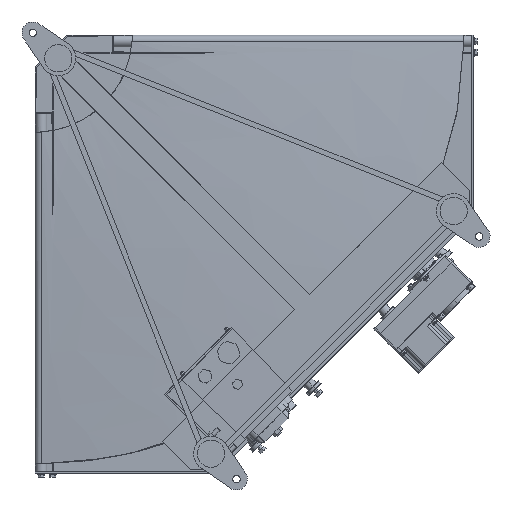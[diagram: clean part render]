
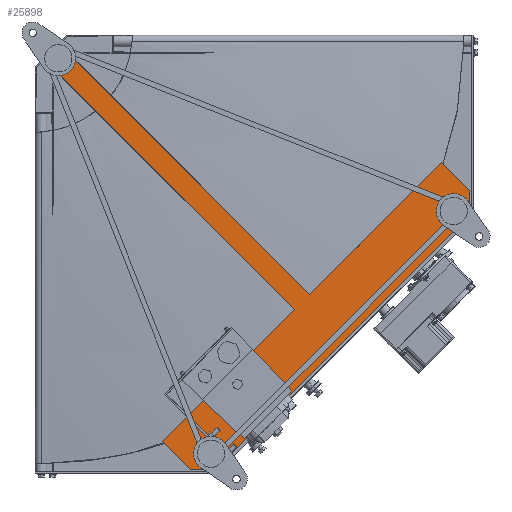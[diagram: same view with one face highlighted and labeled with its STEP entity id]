
A CAD part, front view. The second image highlights one B-rep face of the part: STEP entity #25898.
In plain terms, the highlighted planar face has unit normal (0, -1, 0).
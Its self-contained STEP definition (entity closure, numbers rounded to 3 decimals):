
#96 = LINE ( 'NONE', #44708, #24438 ) ;
#115 = CARTESIAN_POINT ( 'NONE',  ( 222.032, -167.5, -709.935 ) ) ;
#141 = ORIENTED_EDGE ( 'NONE', *, *, #805, .F. ) ;
#759 = LINE ( 'NONE', #5704, #8243 ) ;
#805 = EDGE_CURVE ( 'NONE', #40653, #13918, #39422, .T. ) ;
#1478 = VERTEX_POINT ( 'NONE', #13334 ) ;
#1894 = VERTEX_POINT ( 'NONE', #24121 ) ;
#3240 = VECTOR ( 'NONE', #31391, 1000. ) ;
#5035 = CARTESIAN_POINT ( 'NONE',  ( 15.203, -167.5, -42.073 ) ) ;
#5612 = AXIS2_PLACEMENT_3D ( 'NONE', #38599, #31250, #12714 ) ;
#5704 = CARTESIAN_POINT ( 'NONE',  ( 42.073, -167.5, -15.203 ) ) ;
#5976 = VERTEX_POINT ( 'NONE', #37068 ) ;
#6042 = DIRECTION ( 'NONE',  ( -1., 0., 0. ) ) ;
#6120 = LINE ( 'NONE', #36386, #43837 ) ;
#6366 = CARTESIAN_POINT ( 'NONE',  ( 271.529, -167.5, -759.433 ) ) ;
#6557 = EDGE_CURVE ( 'NONE', #45981, #12388, #8263, .T. ) ;
#6583 = ORIENTED_EDGE ( 'NONE', *, *, #30688, .F. ) ;
#7616 = CARTESIAN_POINT ( 'NONE',  ( 759.433, -167.5, -313.955 ) ) ;
#7663 = LINE ( 'NONE', #115, #45997 ) ;
#7822 = DIRECTION ( 'NONE',  ( 0.707, 0., -0.707 ) ) ;
#7846 = DIRECTION ( 'NONE',  ( 0.707, 0., 0.707 ) ) ;
#8243 = VECTOR ( 'NONE', #46883, 1000. ) ;
#8263 = LINE ( 'NONE', #11491, #30352 ) ;
#8426 = EDGE_CURVE ( 'NONE', #31361, #40653, #96, .T. ) ;
#9247 = ORIENTED_EDGE ( 'NONE', *, *, #6557, .F. ) ;
#10347 = DIRECTION ( 'NONE',  ( 0.707, 0., 0.707 ) ) ;
#11491 = CARTESIAN_POINT ( 'NONE',  ( 222.032, -167.5, -709.935 ) ) ;
#12180 = ORIENTED_EDGE ( 'NONE', *, *, #12367, .F. ) ;
#12367 = EDGE_CURVE ( 'NONE', #13918, #1478, #6120, .T. ) ;
#12388 = VERTEX_POINT ( 'NONE', #17520 ) ;
#12714 = DIRECTION ( 'NONE',  ( 0., 0., -1. ) ) ;
#12831 = FACE_OUTER_BOUND ( 'NONE', #40061, .T. ) ;
#13334 = CARTESIAN_POINT ( 'NONE',  ( 313.955, -167.5, -759.433 ) ) ;
#13918 = VERTEX_POINT ( 'NONE', #18989 ) ;
#15405 = ORIENTED_EDGE ( 'NONE', *, *, #22012, .F. ) ;
#16124 = PLANE ( 'NONE',  #5612 ) ;
#17097 = VECTOR ( 'NONE', #45440, 1000. ) ;
#17199 = DIRECTION ( 'NONE',  ( -0.707, 0., -0.707 ) ) ;
#17520 = CARTESIAN_POINT ( 'NONE',  ( 222.032, -167.5, -709.935 ) ) ;
#18232 = CARTESIAN_POINT ( 'NONE',  ( 709.935, -167.5, -222.032 ) ) ;
#18989 = CARTESIAN_POINT ( 'NONE',  ( 759.433, -167.5, -313.955 ) ) ;
#20151 = ORIENTED_EDGE ( 'NONE', *, *, #35827, .F. ) ;
#21884 = CARTESIAN_POINT ( 'NONE',  ( 15.203, -167.5, -42.073 ) ) ;
#22012 = EDGE_CURVE ( 'NONE', #1478, #45981, #42459, .T. ) ;
#22126 = EDGE_CURVE ( 'NONE', #5976, #42241, #36597, .T. ) ;
#22376 = DIRECTION ( 'NONE',  ( -0.707, 0., 0.707 ) ) ;
#24121 = CARTESIAN_POINT ( 'NONE',  ( 452.548, -167.5, -479.418 ) ) ;
#24438 = VECTOR ( 'NONE', #7822, 1000. ) ;
#24673 = LINE ( 'NONE', #5035, #3240 ) ;
#25421 = VERTEX_POINT ( 'NONE', #35344 ) ;
#25898 = ADVANCED_FACE ( 'NONE', ( #12831 ), #16124, .T. ) ;
#26003 = ORIENTED_EDGE ( 'NONE', *, *, #22126, .F. ) ;
#26146 = VECTOR ( 'NONE', #10347, 1000. ) ;
#27525 = ORIENTED_EDGE ( 'NONE', *, *, #39834, .F. ) ;
#30352 = VECTOR ( 'NONE', #22376, 1000. ) ;
#30688 = EDGE_CURVE ( 'NONE', #1894, #5976, #24673, .T. ) ;
#31250 = DIRECTION ( 'NONE',  ( 0., -1., 0. ) ) ;
#31361 = VERTEX_POINT ( 'NONE', #18232 ) ;
#31391 = DIRECTION ( 'NONE',  ( -0.707, 0., 0.707 ) ) ;
#32571 = CARTESIAN_POINT ( 'NONE',  ( 42.073, -167.5, -15.203 ) ) ;
#33010 = VECTOR ( 'NONE', #45263, 1000. ) ;
#35344 = CARTESIAN_POINT ( 'NONE',  ( 479.418, -167.5, -452.548 ) ) ;
#35827 = EDGE_CURVE ( 'NONE', #25421, #31361, #45614, .T. ) ;
#36386 = CARTESIAN_POINT ( 'NONE',  ( 313.955, -167.5, -759.433 ) ) ;
#36597 = LINE ( 'NONE', #21884, #26146 ) ;
#37068 = CARTESIAN_POINT ( 'NONE',  ( 15.203, -167.5, -42.073 ) ) ;
#38599 = CARTESIAN_POINT ( 'NONE',  ( 0., -167.5, 0. ) ) ;
#39422 = LINE ( 'NONE', #7616, #33010 ) ;
#39834 = EDGE_CURVE ( 'NONE', #42241, #25421, #759, .T. ) ;
#40061 = EDGE_LOOP ( 'NONE', ( #6583, #46956, #9247, #15405, #12180, #141, #45530, #20151, #27525, #26003 ) ) ;
#40653 = VERTEX_POINT ( 'NONE', #44413 ) ;
#42241 = VERTEX_POINT ( 'NONE', #32571 ) ;
#42459 = LINE ( 'NONE', #6366, #45305 ) ;
#43837 = VECTOR ( 'NONE', #17199, 1000. ) ;
#44413 = CARTESIAN_POINT ( 'NONE',  ( 759.433, -167.5, -271.529 ) ) ;
#44708 = CARTESIAN_POINT ( 'NONE',  ( 709.935, -167.5, -222.032 ) ) ;
#45263 = DIRECTION ( 'NONE',  ( 0., 0., -1. ) ) ;
#45305 = VECTOR ( 'NONE', #6042, 1000. ) ;
#45440 = DIRECTION ( 'NONE',  ( 0.707, 0., 0.707 ) ) ;
#45530 = ORIENTED_EDGE ( 'NONE', *, *, #8426, .F. ) ;
#45614 = LINE ( 'NONE', #45917, #17097 ) ;
#45917 = CARTESIAN_POINT ( 'NONE',  ( 222.032, -167.5, -709.935 ) ) ;
#45981 = VERTEX_POINT ( 'NONE', #47106 ) ;
#45997 = VECTOR ( 'NONE', #7846, 1000. ) ;
#46883 = DIRECTION ( 'NONE',  ( 0.707, 0., -0.707 ) ) ;
#46956 = ORIENTED_EDGE ( 'NONE', *, *, #47438, .F. ) ;
#47106 = CARTESIAN_POINT ( 'NONE',  ( 271.529, -167.5, -759.433 ) ) ;
#47438 = EDGE_CURVE ( 'NONE', #12388, #1894, #7663, .T. ) ;
